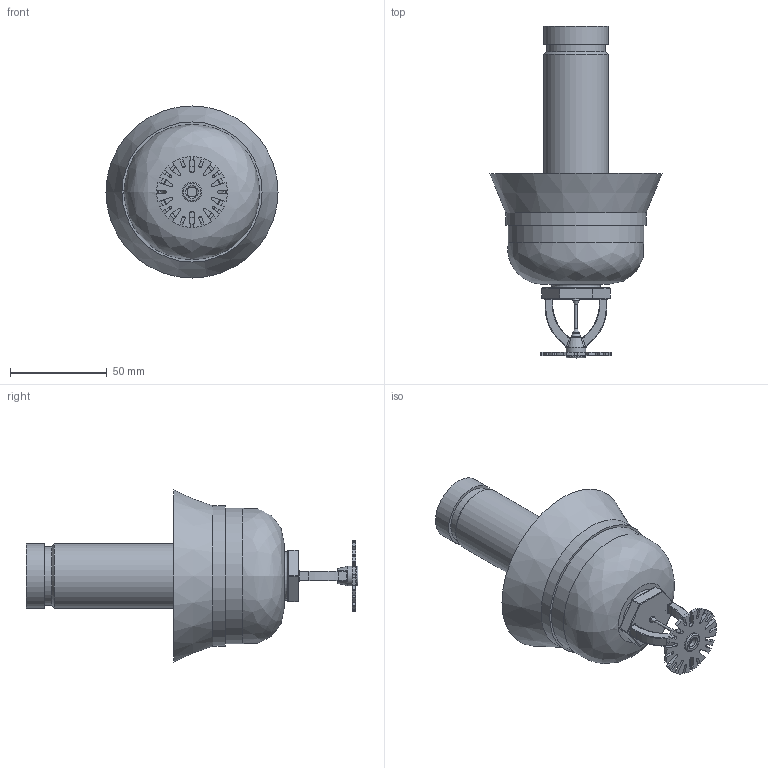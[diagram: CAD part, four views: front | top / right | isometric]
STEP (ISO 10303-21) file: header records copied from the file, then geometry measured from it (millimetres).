
FILE_DESCRIPTION(/* description */ ('VIC SPRINKLER V3608 K8.0 DRY PENDENT QUICK RESPONSE (IGS)','CAx-IF Rec.Pracs.---Representation and Presentation of Product Manufacturing Information (PMI)---4.0---2014-10-13'),/* implementation_level */ '2;1');
FILE_NAME(/* name */ 'C:\Users\kkamble\AppData\Roaming\Autodesk\ApplicationPlugins\Victaulic.Temp\A660\Victaulic_FP-Sprinkler_V3608_DRY_QR_Pendent (IGS)_EXTENDED_1 (25).stp',/* time_stamp */ '2021-03-29T16:30:27+05:00',/* author */ ('kkamble'),/* organization */ ('Victaulic'),/* preprocessor_version */ 'ST-DEVELOPER v17.2',/* originating_system */ 'Autodesk Inventor 2019',/* authorisation */ '');
FILE_SCHEMA (('AP242_MANAGED_MODEL_BASED_3D_ENGINEERING_MIM_LF { 1 0 10303 442 1 1 4 }'));
Length unit declared in the file: inch
Products named in the file (2): V3608_Exteded-01.0; V3608-01.0
Assembly tree (1 placements, depth 2):
  V3608_Exteded-01.0
    V3608-01.0
Bounding box: 88.9 x 171.45 x 88.9 mm (x, y, z)
Volume: 71146.4 mm3; surface area: 61379.4 mm2
Topology: 1 solids, 1 shells, 330 faces, 856 edges, 533 vertices
Faces by surface type: cylinder 110, plane 103, bspline 71, torus 26, sphere 12, cone 8
Full cylindrical faces by diameter (mm): 1.27 x1, 5.08 x2, 10.16 x2, 20.93 x1, 26.645 x1, 30.226 x1, 33.401 x2, 67.31 x1, 69.85 x2, 72.39 x1
Entity records: 11841 total; most frequent: CARTESIAN_POINT 3524, ORIENTED_EDGE 1704, DIRECTION 1624, EDGE_CURVE 852, AXIS2_PLACEMENT_3D 630, VERTEX_POINT 533, LINE 364, VECTOR 364
